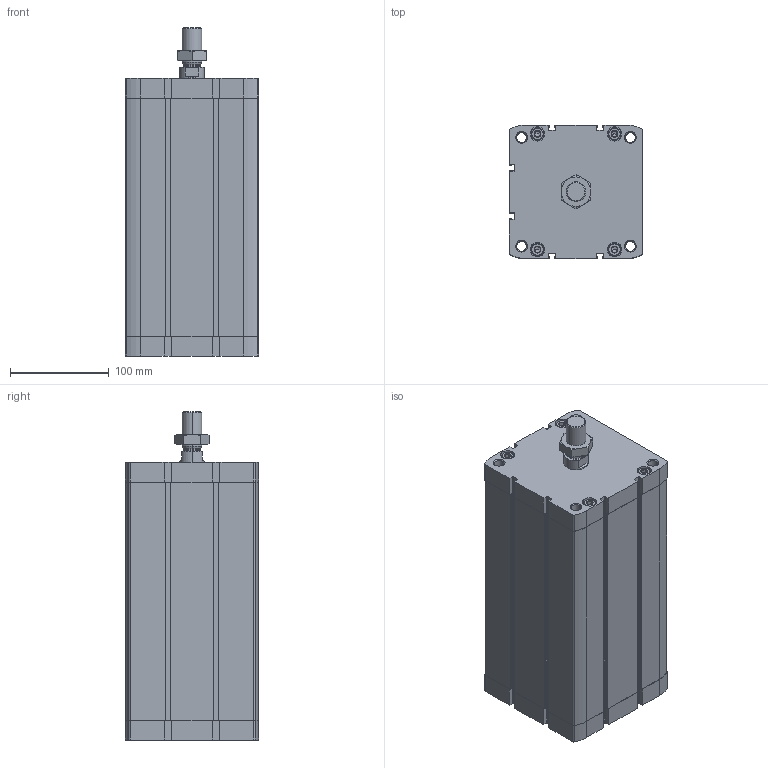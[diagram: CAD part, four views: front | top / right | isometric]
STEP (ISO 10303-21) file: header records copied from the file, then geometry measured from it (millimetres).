
FILE_DESCRIPTION (( 'STEP AP203' ), '1' );
FILE_NAME ('CCN125-200M.STEP', '2020-06-05T19:24:31', ( '' ), ( '' ), 'SwSTEP 2.0', 'SolidWorks 2019', '' );
FILE_SCHEMA (( 'CONFIG_CONTROL_DESIGN' ));
Length unit declared in the file: millimetre
Products named in the file (1): CCN125-200M
Bounding box: 134.6 x 134.6 x 332 mm (x, y, z)
Volume: 2534076.8 mm3; surface area: 423991.3 mm2
Topology: 3 solids, 3 shells, 555 faces, 1412 edges, 886 vertices
Faces by surface type: plane 275, cylinder 196, cone 80, torus 4
Entity records: 18163 total; most frequent: CARTESIAN_POINT 4452, DIRECTION 2966, ORIENTED_EDGE 2792, EDGE_CURVE 1396, AXIS2_PLACEMENT_3D 1092, VERTEX_POINT 886, LINE 782, VECTOR 782
